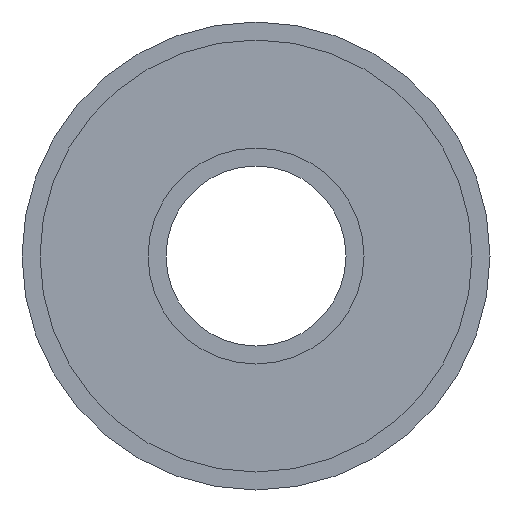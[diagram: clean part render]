
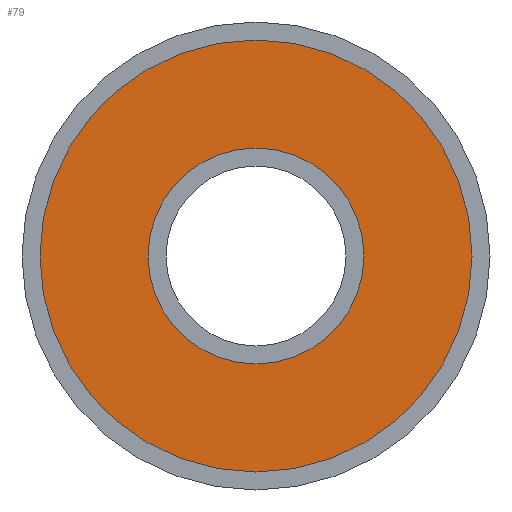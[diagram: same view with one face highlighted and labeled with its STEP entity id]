
A CAD part, front view. The second image highlights one B-rep face of the part: STEP entity #79.
In plain terms, the highlighted planar face has unit normal (0, -1, 0).
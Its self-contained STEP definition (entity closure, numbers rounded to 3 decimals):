
#79 = ADVANCED_FACE( '', ( #104, #105 ), #106, .T. );
#104 = FACE_OUTER_BOUND( '', #152, .T. );
#105 = FACE_BOUND( '', #153, .T. );
#106 = PLANE( '', #154 );
#152 = EDGE_LOOP( '', ( #208 ) );
#153 = EDGE_LOOP( '', ( #209 ) );
#154 = AXIS2_PLACEMENT_3D( '', #210, #211, #212 );
#208 = ORIENTED_EDGE( '', *, *, #273, .T. );
#209 = ORIENTED_EDGE( '', *, *, #272, .F. );
#210 = CARTESIAN_POINT( '', ( 6., -7.7, 0. ) );
#211 = DIRECTION( '', ( 0., -1., 0. ) );
#212 = DIRECTION( '', ( 1., 0., 0. ) );
#272 = EDGE_CURVE( '', #292, #292, #293, .T. );
#273 = EDGE_CURVE( '', #294, #294, #295, .T. );
#292 = VERTEX_POINT( '', #324 );
#293 = CIRCLE( '', #325, 6. );
#294 = VERTEX_POINT( '', #326 );
#295 = CIRCLE( '', #327, 12. );
#324 = CARTESIAN_POINT( '', ( 6., -7.7, 0. ) );
#325 = AXIS2_PLACEMENT_3D( '', #360, #361, #362 );
#326 = CARTESIAN_POINT( '', ( 12., -7.7, 0. ) );
#327 = AXIS2_PLACEMENT_3D( '', #363, #364, #365 );
#360 = CARTESIAN_POINT( '', ( 0., -7.7, 0. ) );
#361 = DIRECTION( '', ( 0., -1., 0. ) );
#362 = DIRECTION( '', ( 1., 0., 0. ) );
#363 = CARTESIAN_POINT( '', ( 0., -7.7, 0. ) );
#364 = DIRECTION( '', ( 0., -1., 0. ) );
#365 = DIRECTION( '', ( 1., 0., 0. ) );
